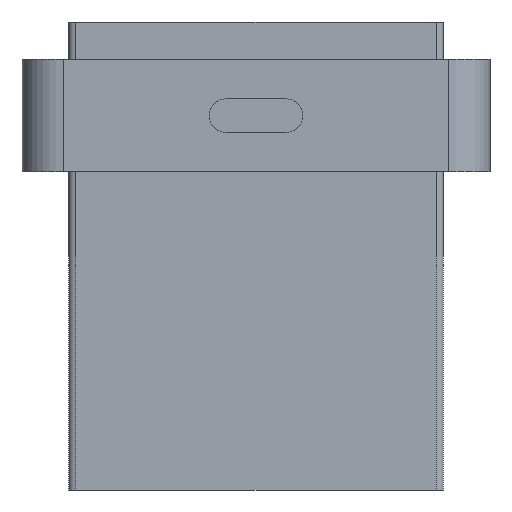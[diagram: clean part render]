
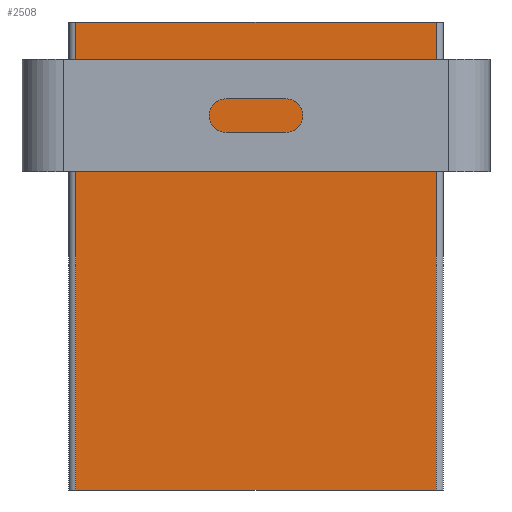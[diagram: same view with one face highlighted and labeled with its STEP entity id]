
A CAD part, front view. The second image highlights one B-rep face of the part: STEP entity #2508.
In plain terms, the highlighted planar face has unit normal (0, -1, 0).
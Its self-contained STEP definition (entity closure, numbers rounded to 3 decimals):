
#167 = ORIENTED_EDGE ( 'NONE', *, *, #4074, .T. ) ;
#380 = DIRECTION ( 'NONE',  ( 1., 0., 0. ) ) ;
#517 = PLANE ( 'NONE',  #2501 ) ;
#628 = EDGE_CURVE ( 'NONE', #3943, #3476, #2317, .T. ) ;
#698 = CARTESIAN_POINT ( 'NONE',  ( 1.9, 0., -125. ) ) ;
#831 = VERTEX_POINT ( 'NONE', #5810 ) ;
#975 = EDGE_CURVE ( 'NONE', #3476, #2524, #5288, .T. ) ;
#1086 = DIRECTION ( 'NONE',  ( 0., -1., 0. ) ) ;
#1719 = ORIENTED_EDGE ( 'NONE', *, *, #5090, .T. ) ;
#1904 = DIRECTION ( 'NONE',  ( 0., 0., 1. ) ) ;
#1966 = CARTESIAN_POINT ( 'NONE',  ( 0., 0., 0. ) ) ;
#2071 = FACE_OUTER_BOUND ( 'NONE', #2130, .T. ) ;
#2072 = DIRECTION ( 'NONE',  ( 1., 0., 0. ) ) ;
#2101 = CARTESIAN_POINT ( 'NONE',  ( 0., 0., -125. ) ) ;
#2130 = EDGE_LOOP ( 'NONE', ( #7024, #6668, #167, #1719 ) ) ;
#2248 = CARTESIAN_POINT ( 'NONE',  ( 1.9, 0., -125. ) ) ;
#2317 = LINE ( 'NONE', #2248, #6026 ) ;
#2501 = AXIS2_PLACEMENT_3D ( 'NONE', #2101, #1086, #4428 ) ;
#2508 = ADVANCED_FACE ( 'NONE', ( #2071 ), #517, .T. ) ;
#2524 = VERTEX_POINT ( 'NONE', #4145 ) ;
#3096 = CARTESIAN_POINT ( 'NONE',  ( 0., 0., -125. ) ) ;
#3476 = VERTEX_POINT ( 'NONE', #4913 ) ;
#3519 = LINE ( 'NONE', #5381, #6344 ) ;
#3612 = DIRECTION ( 'NONE',  ( 0., 0., 1. ) ) ;
#3910 = VECTOR ( 'NONE', #2072, 1000. ) ;
#3943 = VERTEX_POINT ( 'NONE', #698 ) ;
#4074 = EDGE_CURVE ( 'NONE', #3943, #831, #6438, .T. ) ;
#4145 = CARTESIAN_POINT ( 'NONE',  ( 98.1, 0., 0. ) ) ;
#4428 = DIRECTION ( 'NONE',  ( 0., 0., -1. ) ) ;
#4913 = CARTESIAN_POINT ( 'NONE',  ( 1.9, 0., 0. ) ) ;
#5090 = EDGE_CURVE ( 'NONE', #831, #2524, #3519, .T. ) ;
#5288 = LINE ( 'NONE', #1966, #3910 ) ;
#5381 = CARTESIAN_POINT ( 'NONE',  ( 98.1, 0., -125. ) ) ;
#5810 = CARTESIAN_POINT ( 'NONE',  ( 98.1, 0., -125. ) ) ;
#6026 = VECTOR ( 'NONE', #1904, 1000. ) ;
#6097 = VECTOR ( 'NONE', #380, 1000. ) ;
#6344 = VECTOR ( 'NONE', #3612, 1000. ) ;
#6438 = LINE ( 'NONE', #3096, #6097 ) ;
#6668 = ORIENTED_EDGE ( 'NONE', *, *, #628, .F. ) ;
#7024 = ORIENTED_EDGE ( 'NONE', *, *, #975, .F. ) ;
